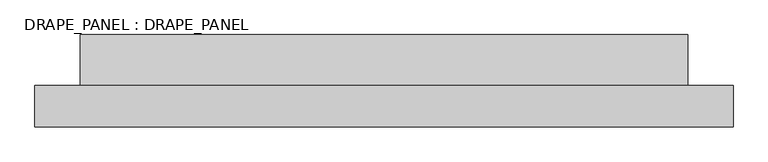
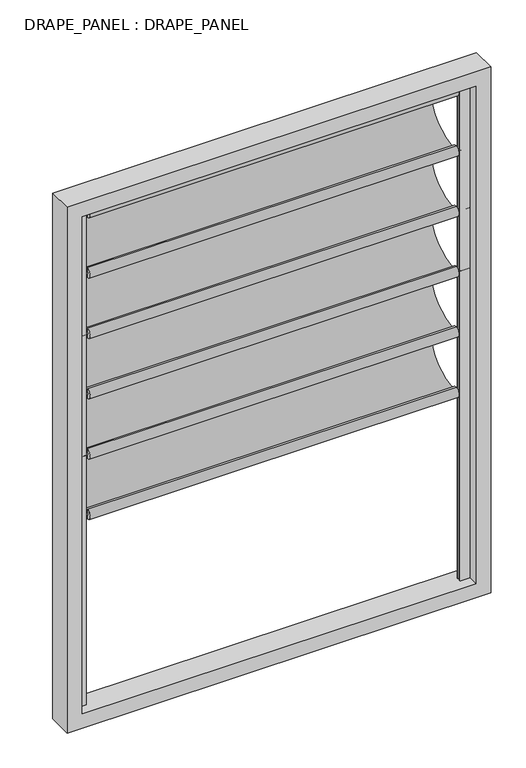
"""IFC4 building model written with IfcOpenShell, lengths in millimetres: plate geometry, DRAPE_PANEL : DRAPE_PANEL."""

from ifc_helpers import new_model, si_unit, point, frame, origin, place, context, project, spatial, polyline, circle_curve, ellipse_curve, trimmed, outline, extrude, source, transform, mapped, element, save
from ifc_brep_helpers import plane_surface, cylinder_surface, extruded_surface, advanced_brep


def drape_panel_drape_panel_a66953bd(model_context):
    return source(origin(), model_context, "Body", "SolidModel", [
        advanced_brep(
        [(-790.0, 0.0, 1371.5019792), (-790.0, 0.0, 1376.5019792), (-790.0, 0.0, 1366.5019792), (790.0, 0.0, 1366.5019792), (790.0, 0.0, 1376.5019792), (790.0, 0.0, 1371.5019792), (740.0, 0.0, 1366.5019792), (740.0, 0.0, 1376.5019792), (740.0, 0.0, 1351.5019792), (740.0, 0.0, 1391.5019792), (-740.0, 0.0, 1351.5019792), (-740.0, 0.0, 1391.5019792), (-740.0, 0.0, 1366.5019792), (-740.0, 0.0, 1376.5019792)],
        [
            (0, 1),
            (1, 2, circle_curve(frame((-790.0, 0.0, 1371.5019792), z_axis=(-1.0, 0.0, 0.0), x_axis=(0.0, 0.0, 1.0)), 5.0)),
            (2, 0),
            (2, 1, circle_curve(frame((-790.0, 0.0, 1371.5019792), z_axis=(-1.0, 0.0, 0.0), x_axis=(0.0, 0.0, 1.0)), 5.0)),
            (3, 4, circle_curve(frame((790.0, 0.0, 1371.5019792), z_axis=(1.0, 0.0, 0.0), x_axis=(0.0, 0.0, 1.0)), 5.0)),
            (4, 5),
            (5, 3),
            (4, 3, circle_curve(frame((790.0, 0.0, 1371.5019792), z_axis=(1.0, 0.0, 0.0), x_axis=(0.0, 0.0, 1.0)), 5.0)),
            (6, 7, circle_curve(frame((740.0, 0.0, 1371.5019792), z_axis=(1.0, 0.0, 0.0), x_axis=(0.0, 0.0, 1.0)), 5.0)),
            (7, 4),
            (3, 6),
            (7, 6, circle_curve(frame((740.0, 0.0, 1371.5019792), z_axis=(1.0, 0.0, 0.0), x_axis=(0.0, 0.0, 1.0)), 5.0)),
            (8, 9, circle_curve(frame((740.0, 0.0, 1371.5019792), z_axis=(1.0, 0.0, 0.0), x_axis=(0.0, 0.0, 1.0)), 20.0)),
            (9, 7),
            (6, 8),
            (9, 8, circle_curve(frame((740.0, 0.0, 1371.5019792), z_axis=(1.0, 0.0, 0.0), x_axis=(0.0, 0.0, 1.0)), 20.0)),
            (10, 11, circle_curve(frame((-740.0, 0.0, 1371.5019792), z_axis=(1.0, 0.0, 0.0), x_axis=(0.0, 0.0, 1.0)), 20.0)),
            (11, 9),
            (8, 10),
            (11, 10, circle_curve(frame((-740.0, 0.0, 1371.5019792), z_axis=(1.0, 0.0, 0.0), x_axis=(0.0, 0.0, 1.0)), 20.0)),
            (12, 13, circle_curve(frame((-740.0, 0.0, 1371.5019792), z_axis=(1.0, 0.0, 0.0), x_axis=(0.0, 0.0, 1.0)), 5.0)),
            (13, 11),
            (10, 12),
            (13, 12, circle_curve(frame((-740.0, 0.0, 1371.5019792), z_axis=(1.0, 0.0, 0.0), x_axis=(0.0, 0.0, 1.0)), 5.0)),
            (1, 13),
            (12, 2),
        ],
        [
            plane_surface(frame((-790.0, 0.0, 1371.5019792), z_axis=(-1.0, 0.0, 0.0), x_axis=(0.0, 0.0, 1.0))),
            plane_surface(frame((790.0, 0.0, 1371.5019792), z_axis=(1.0, 0.0, 0.0), x_axis=(0.0, 0.0, 1.0))),
            cylinder_surface(frame((6238.8752301, 0.0, 1371.5019792), z_axis=(-1.0, 0.0, 0.0), x_axis=(0.0, 0.0, 1.0)), 5.0),
            plane_surface(frame((740.0, 0.0, 1371.5019792), z_axis=(1.0, 0.0, 0.0), x_axis=(0.0, 0.0, 1.0))),
            cylinder_surface(frame((6238.8752301, 0.0, 1371.5019792), z_axis=(-1.0, 0.0, 0.0), x_axis=(0.0, 0.0, 1.0)), 20.0),
            plane_surface(frame((-740.0, 0.0, 1371.5019792), z_axis=(-1.0, 0.0, 0.0), x_axis=(0.0, 0.0, 1.0))),
        ],
        [
            (0, [[1, 2, 3]]),
            (0, [[-3, 4, -1]]),
            (1, [[5, 6, 7]]),
            (1, [[8, -7, -6]]),
            (2, [[9, 10, -5, 11]]),
            (2, [[12, -11, -8, -10]]),
            (3, [[13, 14, -9, 15]]),
            (3, [[16, -15, -12, -14]]),
            (4, [[17, 18, -13, 19]]),
            (4, [[20, -19, -16, -18]]),
            (5, [[21, 22, -17, 23]]),
            (5, [[24, -23, -20, -22]]),
            (2, [[-2, 25, -21, 26]]),
            (2, [[-4, -26, -24, -25]]),
        ],
    ),
        advanced_brep(
        [(740.0, 0.0, 1371.5019792), (740.0, 0.0, 1368.5019792), (740.0, 0.0, 1118.7509896), (740.0, 0.0, 1115.7509896), (-740.0, 0.0, 1371.5019792), (-740.0, 0.0, 1115.7509896), (-740.0, 0.0, 1118.7509896), (-740.0, 0.0, 1368.5019792)],
        [
            (0, 1),
            (1, 2, ellipse_curve(frame((740.0, 0.0, 1243.6264844), z_axis=(-1.0, 0.0, 0.0), x_axis=(0.0, -1.0, 0.0)), 171.2452068, 124.8754948)),
            (2, 3),
            (3, 0, ellipse_curve(frame((740.0, 0.0, 1243.6264844), z_axis=(1.0, 0.0, 0.0), x_axis=(0.0, 1.0, 0.0)), 174.2452068, 127.8754948)),
            (4, 5, ellipse_curve(frame((-740.0, 0.0, 1243.6264844), z_axis=(-1.0, 0.0, 0.0), x_axis=(0.0, 0.0, -1.0)), 127.8754948, 174.2452068)),
            (5, 6),
            (6, 7, ellipse_curve(frame((-740.0, 0.0, 1243.6264844), z_axis=(1.0, 0.0, 0.0), x_axis=(0.0, 0.0, -1.0)), 124.8754948, 171.2452068)),
            (7, 4),
            (0, 4),
            (7, 1),
            (6, 2),
            (5, 3),
        ],
        [
            plane_surface(frame((740.0, 0.0, 1371.5019792), z_axis=(1.0, 0.0, 0.0), x_axis=(0.0, -1.3744986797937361e-12, -1.0))),
            plane_surface(frame((-740.0, 0.0, 1371.5019792), z_axis=(-1.0, 0.0, 0.0), x_axis=(0.0, 1.3744986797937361e-12, 1.0))),
            plane_surface(frame((740.0, 0.0, 1371.5019792), z_axis=(0.0, -1.0, 1.3744986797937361e-12), x_axis=(-1.0, 0.0, 0.0))),
            extruded_surface(trimmed(ellipse_curve(frame((-2220.0, 0.0, 1243.6264844), z_axis=(-1.0, 0.0, 0.0), x_axis=(0.0, 0.0, -1.0)), 124.8754948, 171.2452068), [point((-2220.0, 0.0, 1368.5019792))], [point((-2220.0, 0.0, 1118.7509896))], True, "CARTESIAN"), (1480.0, 0.0, 0.0), 1480.0),
            plane_surface(frame((740.0, 0.0, 1118.7509896), z_axis=(0.0, -1.0, 0.0), x_axis=(-1.0, 0.0, 0.0))),
            extruded_surface(trimmed(ellipse_curve(frame((-2220.0, 0.0, 1243.6264844), z_axis=(1.0, 0.0, 0.0), x_axis=(0.0, 0.0, -1.0)), 127.8754948, 174.2452068), [point((-2220.0, 0.0, 1115.7509896))], [point((-2220.0, 0.0, 1371.5019792))], True, "CARTESIAN"), (1480.0, 0.0, 0.0), 1480.0),
        ],
        [
            (0, [[1, 2, 3, 4]]),
            (1, [[5, 6, 7, 8]]),
            (2, [[-1, 9, -8, 10]]),
            (3, [[-2, -10, -7, 11]]),
            (4, [[-3, -11, -6, 12]]),
            (5, [[-4, -12, -5, -9]]),
        ],
    ),
        advanced_brep(
        [(-790.0, 0.0, 1627.2529688), (-790.0, 0.0, 1632.2529688), (-790.0, 0.0, 1622.2529688), (790.0, 0.0, 1622.2529688), (790.0, 0.0, 1632.2529688), (790.0, 0.0, 1627.2529688), (740.0, 0.0, 1622.2529688), (740.0, 0.0, 1632.2529688), (740.0, 0.0, 1607.2529688), (740.0, 0.0, 1647.2529688), (-740.0, 0.0, 1607.2529688), (-740.0, 0.0, 1647.2529688), (-740.0, 0.0, 1622.2529688), (-740.0, 0.0, 1632.2529688)],
        [
            (0, 1),
            (1, 2, circle_curve(frame((-790.0, 0.0, 1627.2529688), z_axis=(-1.0, 0.0, 0.0), x_axis=(0.0, 0.0, 1.0)), 5.0)),
            (2, 0),
            (2, 1, circle_curve(frame((-790.0, 0.0, 1627.2529688), z_axis=(-1.0, 0.0, 0.0), x_axis=(0.0, 0.0, 1.0)), 5.0)),
            (3, 4, circle_curve(frame((790.0, 0.0, 1627.2529688), z_axis=(1.0, 0.0, 0.0), x_axis=(0.0, 0.0, 1.0)), 5.0)),
            (4, 5),
            (5, 3),
            (4, 3, circle_curve(frame((790.0, 0.0, 1627.2529688), z_axis=(1.0, 0.0, 0.0), x_axis=(0.0, 0.0, 1.0)), 5.0)),
            (6, 7, circle_curve(frame((740.0, 0.0, 1627.2529688), z_axis=(1.0, 0.0, 0.0), x_axis=(0.0, 0.0, 1.0)), 5.0)),
            (7, 4),
            (3, 6),
            (7, 6, circle_curve(frame((740.0, 0.0, 1627.2529688), z_axis=(1.0, 0.0, 0.0), x_axis=(0.0, 0.0, 1.0)), 5.0)),
            (8, 9, circle_curve(frame((740.0, 0.0, 1627.2529688), z_axis=(1.0, 0.0, 0.0), x_axis=(0.0, 0.0, 1.0)), 20.0)),
            (9, 7),
            (6, 8),
            (9, 8, circle_curve(frame((740.0, 0.0, 1627.2529688), z_axis=(1.0, 0.0, 0.0), x_axis=(0.0, 0.0, 1.0)), 20.0)),
            (10, 11, circle_curve(frame((-740.0, 0.0, 1627.2529688), z_axis=(1.0, 0.0, 0.0), x_axis=(0.0, 0.0, 1.0)), 20.0)),
            (11, 9),
            (8, 10),
            (11, 10, circle_curve(frame((-740.0, 0.0, 1627.2529688), z_axis=(1.0, 0.0, 0.0), x_axis=(0.0, 0.0, 1.0)), 20.0)),
            (12, 13, circle_curve(frame((-740.0, 0.0, 1627.2529688), z_axis=(1.0, 0.0, 0.0), x_axis=(0.0, 0.0, 1.0)), 5.0)),
            (13, 11),
            (10, 12),
            (13, 12, circle_curve(frame((-740.0, 0.0, 1627.2529688), z_axis=(1.0, 0.0, 0.0), x_axis=(0.0, 0.0, 1.0)), 5.0)),
            (1, 13),
            (12, 2),
        ],
        [
            plane_surface(frame((-790.0, 0.0, 1627.2529688), z_axis=(-1.0, 0.0, 0.0), x_axis=(0.0, 0.0, 1.0))),
            plane_surface(frame((790.0, 0.0, 1627.2529688), z_axis=(1.0, 0.0, 0.0), x_axis=(0.0, 0.0, 1.0))),
            cylinder_surface(frame((6238.8752301, 0.0, 1627.2529688), z_axis=(-1.0, 0.0, 0.0), x_axis=(0.0, 0.0, 1.0)), 5.0),
            plane_surface(frame((740.0, 0.0, 1627.2529688), z_axis=(1.0, 0.0, 0.0), x_axis=(0.0, 0.0, 1.0))),
            cylinder_surface(frame((6238.8752301, 0.0, 1627.2529688), z_axis=(-1.0, 0.0, 0.0), x_axis=(0.0, 0.0, 1.0)), 20.0),
            plane_surface(frame((-740.0, 0.0, 1627.2529688), z_axis=(-1.0, 0.0, 0.0), x_axis=(0.0, 0.0, 1.0))),
        ],
        [
            (0, [[1, 2, 3]]),
            (0, [[-3, 4, -1]]),
            (1, [[5, 6, 7]]),
            (1, [[8, -7, -6]]),
            (2, [[9, 10, -5, 11]]),
            (2, [[12, -11, -8, -10]]),
            (3, [[13, 14, -9, 15]]),
            (3, [[16, -15, -12, -14]]),
            (4, [[17, 18, -13, 19]]),
            (4, [[20, -19, -16, -18]]),
            (5, [[21, 22, -17, 23]]),
            (5, [[24, -23, -20, -22]]),
            (2, [[-2, 25, -21, 26]]),
            (2, [[-4, -26, -24, -25]]),
        ],
    ),
        advanced_brep(
        [(740.0, 0.0, 1627.2529688), (740.0, 0.0, 1624.2529688), (740.0, 0.0, 1374.5019792), (740.0, 0.0, 1371.5019792), (-740.0, 0.0, 1627.2529688), (-740.0, 0.0, 1371.5019792), (-740.0, 0.0, 1374.5019792), (-740.0, 0.0, 1624.2529688)],
        [
            (0, 1),
            (1, 2, ellipse_curve(frame((740.0, 0.0, 1499.377474), z_axis=(-1.0, 0.0, 0.0), x_axis=(0.0, -1.0, 0.0)), 171.2452068, 124.8754948)),
            (2, 3),
            (3, 0, ellipse_curve(frame((740.0, 0.0, 1499.377474), z_axis=(1.0, 0.0, 0.0), x_axis=(0.0, 1.0, 0.0)), 174.2452068, 127.8754948)),
            (4, 5, ellipse_curve(frame((-740.0, 0.0, 1499.377474), z_axis=(-1.0, 0.0, 0.0), x_axis=(0.0, 0.0, -1.0)), 127.8754948, 174.2452068)),
            (5, 6),
            (6, 7, ellipse_curve(frame((-740.0, 0.0, 1499.377474), z_axis=(1.0, 0.0, 0.0), x_axis=(0.0, 0.0, -1.0)), 124.8754948, 171.2452068)),
            (7, 4),
            (0, 4),
            (7, 1),
            (6, 2),
            (5, 3),
        ],
        [
            plane_surface(frame((740.0, 0.0, 1627.2529688), z_axis=(1.0, 0.0, 0.0), x_axis=(0.0, -1.3744986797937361e-12, -1.0))),
            plane_surface(frame((-740.0, 0.0, 1627.2529688), z_axis=(-1.0, 0.0, 0.0), x_axis=(0.0, 1.3744986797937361e-12, 1.0))),
            plane_surface(frame((740.0, 0.0, 1627.2529688), z_axis=(0.0, -1.0, 1.3744986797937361e-12), x_axis=(-1.0, 0.0, 0.0))),
            extruded_surface(trimmed(ellipse_curve(frame((-2220.0, 0.0, 1499.377474), z_axis=(-1.0, 0.0, 0.0), x_axis=(0.0, 0.0, -1.0)), 124.8754948, 171.2452068), [point((-2220.0, 0.0, 1624.2529688))], [point((-2220.0, 0.0, 1374.5019792))], True, "CARTESIAN"), (1480.0, 0.0, 0.0), 1480.0),
            plane_surface(frame((740.0, 0.0, 1374.5019792), z_axis=(0.0, -1.0, 0.0), x_axis=(-1.0, 0.0, 0.0))),
            extruded_surface(trimmed(ellipse_curve(frame((-2220.0, 0.0, 1499.377474), z_axis=(1.0, 0.0, 0.0), x_axis=(0.0, 0.0, -1.0)), 127.8754948, 174.2452068), [point((-2220.0, 0.0, 1371.5019792))], [point((-2220.0, 0.0, 1627.2529688))], True, "CARTESIAN"), (1480.0, 0.0, 0.0), 1480.0),
        ],
        [
            (0, [[1, 2, 3, 4]]),
            (1, [[5, 6, 7, 8]]),
            (2, [[-1, 9, -8, 10]]),
            (3, [[-2, -10, -7, 11]]),
            (4, [[-3, -11, -6, 12]]),
            (5, [[-4, -12, -5, -9]]),
        ],
    ),
        advanced_brep(
        [(-790.0, 0.0, 1883.0039583), (-790.0, 0.0, 1888.0039583), (-790.0, 0.0, 1878.0039583), (790.0, 0.0, 1878.0039583), (790.0, 0.0, 1888.0039583), (790.0, 0.0, 1883.0039583), (740.0, 0.0, 1878.0039583), (740.0, 0.0, 1888.0039583), (740.0, 0.0, 1863.0039583), (740.0, 0.0, 1903.0039583), (-740.0, 0.0, 1863.0039583), (-740.0, 0.0, 1903.0039583), (-740.0, 0.0, 1878.0039583), (-740.0, 0.0, 1888.0039583)],
        [
            (0, 1),
            (1, 2, circle_curve(frame((-790.0, 0.0, 1883.0039583), z_axis=(-1.0, 0.0, 0.0), x_axis=(0.0, 0.0, 1.0)), 5.0)),
            (2, 0),
            (2, 1, circle_curve(frame((-790.0, 0.0, 1883.0039583), z_axis=(-1.0, 0.0, 0.0), x_axis=(0.0, 0.0, 1.0)), 5.0)),
            (3, 4, circle_curve(frame((790.0, 0.0, 1883.0039583), z_axis=(1.0, 0.0, 0.0), x_axis=(0.0, 0.0, 1.0)), 5.0)),
            (4, 5),
            (5, 3),
            (4, 3, circle_curve(frame((790.0, 0.0, 1883.0039583), z_axis=(1.0, 0.0, 0.0), x_axis=(0.0, 0.0, 1.0)), 5.0)),
            (6, 7, circle_curve(frame((740.0, 0.0, 1883.0039583), z_axis=(1.0, 0.0, 0.0), x_axis=(0.0, 0.0, 1.0)), 5.0)),
            (7, 4),
            (3, 6),
            (7, 6, circle_curve(frame((740.0, 0.0, 1883.0039583), z_axis=(1.0, 0.0, 0.0), x_axis=(0.0, 0.0, 1.0)), 5.0)),
            (8, 9, circle_curve(frame((740.0, 0.0, 1883.0039583), z_axis=(1.0, 0.0, 0.0), x_axis=(0.0, 0.0, 1.0)), 20.0)),
            (9, 7),
            (6, 8),
            (9, 8, circle_curve(frame((740.0, 0.0, 1883.0039583), z_axis=(1.0, 0.0, 0.0), x_axis=(0.0, 0.0, 1.0)), 20.0)),
            (10, 11, circle_curve(frame((-740.0, 0.0, 1883.0039583), z_axis=(1.0, 0.0, 0.0), x_axis=(0.0, 0.0, 1.0)), 20.0)),
            (11, 9),
            (8, 10),
            (11, 10, circle_curve(frame((-740.0, 0.0, 1883.0039583), z_axis=(1.0, 0.0, 0.0), x_axis=(0.0, 0.0, 1.0)), 20.0)),
            (12, 13, circle_curve(frame((-740.0, 0.0, 1883.0039583), z_axis=(1.0, 0.0, 0.0), x_axis=(0.0, 0.0, 1.0)), 5.0)),
            (13, 11),
            (10, 12),
            (13, 12, circle_curve(frame((-740.0, 0.0, 1883.0039583), z_axis=(1.0, 0.0, 0.0), x_axis=(0.0, 0.0, 1.0)), 5.0)),
            (1, 13),
            (12, 2),
        ],
        [
            plane_surface(frame((-790.0, 0.0, 1883.0039583), z_axis=(-1.0, 0.0, 0.0), x_axis=(0.0, 0.0, 1.0))),
            plane_surface(frame((790.0, 0.0, 1883.0039583), z_axis=(1.0, 0.0, 0.0), x_axis=(0.0, 0.0, 1.0))),
            cylinder_surface(frame((6238.8752301, 0.0, 1883.0039583), z_axis=(-1.0, 0.0, 0.0), x_axis=(0.0, 0.0, 1.0)), 5.0),
            plane_surface(frame((740.0, 0.0, 1883.0039583), z_axis=(1.0, 0.0, 0.0), x_axis=(0.0, 0.0, 1.0))),
            cylinder_surface(frame((6238.8752301, 0.0, 1883.0039583), z_axis=(-1.0, 0.0, 0.0), x_axis=(0.0, 0.0, 1.0)), 20.0),
            plane_surface(frame((-740.0, 0.0, 1883.0039583), z_axis=(-1.0, 0.0, 0.0), x_axis=(0.0, 0.0, 1.0))),
        ],
        [
            (0, [[1, 2, 3]]),
            (0, [[-3, 4, -1]]),
            (1, [[5, 6, 7]]),
            (1, [[8, -7, -6]]),
            (2, [[9, 10, -5, 11]]),
            (2, [[12, -11, -8, -10]]),
            (3, [[13, 14, -9, 15]]),
            (3, [[16, -15, -12, -14]]),
            (4, [[17, 18, -13, 19]]),
            (4, [[20, -19, -16, -18]]),
            (5, [[21, 22, -17, 23]]),
            (5, [[24, -23, -20, -22]]),
            (2, [[-2, 25, -21, 26]]),
            (2, [[-4, -26, -24, -25]]),
        ],
    ),
        advanced_brep(
        [(740.0, 0.0, 1883.0039583), (740.0, 0.0, 1880.0039583), (740.0, 0.0, 1630.2529688), (740.0, 0.0, 1627.2529688), (-740.0, 0.0, 1883.0039583), (-740.0, 0.0, 1627.2529688), (-740.0, 0.0, 1630.2529687), (-740.0, 0.0, 1880.0039583)],
        [
            (0, 1),
            (1, 2, ellipse_curve(frame((740.0, 0.0, 1755.1284635), z_axis=(-1.0, 0.0, 0.0), x_axis=(0.0, -1.0, 0.0)), 171.2452068, 124.8754948)),
            (2, 3),
            (3, 0, ellipse_curve(frame((740.0, 0.0, 1755.1284635), z_axis=(1.0, 0.0, 0.0), x_axis=(0.0, 1.0, 0.0)), 174.2452068, 127.8754948)),
            (4, 5, ellipse_curve(frame((-740.0, 0.0, 1755.1284635), z_axis=(-1.0, 0.0, 0.0), x_axis=(0.0, 0.0, -1.0)), 127.8754948, 174.2452068)),
            (5, 6),
            (6, 7, ellipse_curve(frame((-740.0, 0.0, 1755.1284635), z_axis=(1.0, 0.0, 0.0), x_axis=(0.0, 0.0, -1.0)), 124.8754948, 171.2452068)),
            (7, 4),
            (0, 4),
            (7, 1),
            (6, 2),
            (5, 3),
        ],
        [
            plane_surface(frame((740.0, 0.0, 1883.0039583), z_axis=(1.0, 0.0, 0.0), x_axis=(0.0, -1.3744986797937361e-12, -1.0))),
            plane_surface(frame((-740.0, 0.0, 1883.0039583), z_axis=(-1.0, 0.0, 0.0), x_axis=(0.0, 1.3744986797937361e-12, 1.0))),
            plane_surface(frame((740.0, 0.0, 1883.0039583), z_axis=(0.0, -1.0, 1.3744986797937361e-12), x_axis=(-1.0, 0.0, 0.0))),
            extruded_surface(trimmed(ellipse_curve(frame((-2220.0, 0.0, 1755.1284635), z_axis=(-1.0, 0.0, 0.0), x_axis=(0.0, 0.0, -1.0)), 124.8754948, 171.2452068), [point((-2220.0, 0.0, 1880.0039583))], [point((-2220.0, 0.0, 1630.2529687))], True, "CARTESIAN"), (1480.0, 0.0, 0.0), 1480.0),
            plane_surface(frame((740.0, 0.0, 1630.2529688), z_axis=(0.0, -1.0, 0.0), x_axis=(-1.0, 0.0, 0.0))),
            extruded_surface(trimmed(ellipse_curve(frame((-2220.0, 0.0, 1755.1284635), z_axis=(1.0, 0.0, 0.0), x_axis=(0.0, 0.0, -1.0)), 127.8754948, 174.2452068), [point((-2220.0, 0.0, 1627.2529688))], [point((-2220.0, 0.0, 1883.0039583))], True, "CARTESIAN"), (1480.0, 0.0, 0.0), 1480.0),
        ],
        [
            (0, [[1, 2, 3, 4]]),
            (1, [[5, 6, 7, 8]]),
            (2, [[-1, 9, -8, 10]]),
            (3, [[-2, -10, -7, 11]]),
            (4, [[-3, -11, -6, 12]]),
            (5, [[-4, -12, -5, -9]]),
        ],
    ),
        advanced_brep(
        [(-790.0, 0.0, 1115.7509896), (-790.0, 0.0, 1120.7509896), (-790.0, 0.0, 1110.7509896), (790.0, 0.0, 1110.7509896), (790.0, 0.0, 1120.7509896), (790.0, 0.0, 1115.7509896), (740.0, 0.0, 1110.7509896), (740.0, 0.0, 1120.7509896), (740.0, 0.0, 1095.7509896), (740.0, 0.0, 1135.7509896), (-740.0, 0.0, 1095.7509896), (-740.0, 0.0, 1135.7509896), (-740.0, 0.0, 1110.7509896), (-740.0, 0.0, 1120.7509896)],
        [
            (0, 1),
            (1, 2, circle_curve(frame((-790.0, 0.0, 1115.7509896), z_axis=(-1.0, 0.0, 0.0), x_axis=(0.0, 0.0, 1.0)), 5.0)),
            (2, 0),
            (2, 1, circle_curve(frame((-790.0, 0.0, 1115.7509896), z_axis=(-1.0, 0.0, 0.0), x_axis=(0.0, 0.0, 1.0)), 5.0)),
            (3, 4, circle_curve(frame((790.0, 0.0, 1115.7509896), z_axis=(1.0, 0.0, 0.0), x_axis=(0.0, 0.0, 1.0)), 5.0)),
            (4, 5),
            (5, 3),
            (4, 3, circle_curve(frame((790.0, 0.0, 1115.7509896), z_axis=(1.0, 0.0, 0.0), x_axis=(0.0, 0.0, 1.0)), 5.0)),
            (6, 7, circle_curve(frame((740.0, 0.0, 1115.7509896), z_axis=(1.0, 0.0, 0.0), x_axis=(0.0, 0.0, 1.0)), 5.0)),
            (7, 4),
            (3, 6),
            (7, 6, circle_curve(frame((740.0, 0.0, 1115.7509896), z_axis=(1.0, 0.0, 0.0), x_axis=(0.0, 0.0, 1.0)), 5.0)),
            (8, 9, circle_curve(frame((740.0, 0.0, 1115.7509896), z_axis=(1.0, 0.0, 0.0), x_axis=(0.0, 0.0, 1.0)), 20.0)),
            (9, 7),
            (6, 8),
            (9, 8, circle_curve(frame((740.0, 0.0, 1115.7509896), z_axis=(1.0, 0.0, 0.0), x_axis=(0.0, 0.0, 1.0)), 20.0)),
            (10, 11, circle_curve(frame((-740.0, 0.0, 1115.7509896), z_axis=(1.0, 0.0, 0.0), x_axis=(0.0, 0.0, 1.0)), 20.0)),
            (11, 9),
            (8, 10),
            (11, 10, circle_curve(frame((-740.0, 0.0, 1115.7509896), z_axis=(1.0, 0.0, 0.0), x_axis=(0.0, 0.0, 1.0)), 20.0)),
            (12, 13, circle_curve(frame((-740.0, 0.0, 1115.7509896), z_axis=(1.0, 0.0, 0.0), x_axis=(0.0, 0.0, 1.0)), 5.0)),
            (13, 11),
            (10, 12),
            (13, 12, circle_curve(frame((-740.0, 0.0, 1115.7509896), z_axis=(1.0, 0.0, 0.0), x_axis=(0.0, 0.0, 1.0)), 5.0)),
            (1, 13),
            (12, 2),
        ],
        [
            plane_surface(frame((-790.0, 0.0, 1115.7509896), z_axis=(-1.0, 0.0, 0.0), x_axis=(0.0, 0.0, 1.0))),
            plane_surface(frame((790.0, 0.0, 1115.7509896), z_axis=(1.0, 0.0, 0.0), x_axis=(0.0, 0.0, 1.0))),
            cylinder_surface(frame((6238.8752301, 0.0, 1115.7509896), z_axis=(-1.0, 0.0, 0.0), x_axis=(0.0, 0.0, 1.0)), 5.0),
            plane_surface(frame((740.0, 0.0, 1115.7509896), z_axis=(1.0, 0.0, 0.0), x_axis=(0.0, 0.0, 1.0))),
            cylinder_surface(frame((6238.8752301, 0.0, 1115.7509896), z_axis=(-1.0, 0.0, 0.0), x_axis=(0.0, 0.0, 1.0)), 20.0),
            plane_surface(frame((-740.0, 0.0, 1115.7509896), z_axis=(-1.0, 0.0, 0.0), x_axis=(0.0, 0.0, 1.0))),
        ],
        [
            (0, [[1, 2, 3]]),
            (0, [[-3, 4, -1]]),
            (1, [[5, 6, 7]]),
            (1, [[8, -7, -6]]),
            (2, [[9, 10, -5, 11]]),
            (2, [[12, -11, -8, -10]]),
            (3, [[13, 14, -9, 15]]),
            (3, [[16, -15, -12, -14]]),
            (4, [[17, 18, -13, 19]]),
            (4, [[20, -19, -16, -18]]),
            (5, [[21, 22, -17, 23]]),
            (5, [[24, -23, -20, -22]]),
            (2, [[-2, 25, -21, 26]]),
            (2, [[-4, -26, -24, -25]]),
        ],
    ),
        advanced_brep(
        [(740.0, 0.0, 1115.7509896), (740.0, 0.0, 1112.7509896), (740.0, 0.0, 863.0), (740.0, 0.0, 860.0), (-740.0, 0.0, 1115.7509896), (-740.0, 0.0, 860.0), (-740.0, 0.0, 863.0), (-740.0, 0.0, 1112.7509896)],
        [
            (0, 1),
            (1, 2, ellipse_curve(frame((740.0, 0.0, 987.8754948), z_axis=(-1.0, 0.0, 0.0), x_axis=(0.0, -1.0, 0.0)), 171.2452068, 124.8754948)),
            (2, 3),
            (3, 0, ellipse_curve(frame((740.0, 0.0, 987.8754948), z_axis=(1.0, 0.0, 0.0), x_axis=(0.0, 1.0, 0.0)), 174.2452068, 127.8754948)),
            (4, 5, ellipse_curve(frame((-740.0, 0.0, 987.8754948), z_axis=(-1.0, 0.0, 0.0), x_axis=(0.0, 0.0, -1.0)), 127.8754948, 174.2452068)),
            (5, 6),
            (6, 7, ellipse_curve(frame((-740.0, 0.0, 987.8754948), z_axis=(1.0, 0.0, 0.0), x_axis=(0.0, 0.0, -1.0)), 124.8754948, 171.2452068)),
            (7, 4),
            (0, 4),
            (7, 1),
            (6, 2),
            (5, 3),
        ],
        [
            plane_surface(frame((740.0, 0.0, 1115.7509896), z_axis=(1.0, 0.0, 0.0), x_axis=(0.0, -1.3744986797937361e-12, -1.0))),
            plane_surface(frame((-740.0, 0.0, 1115.7509896), z_axis=(-1.0, 0.0, 0.0), x_axis=(0.0, 1.3744986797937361e-12, 1.0))),
            plane_surface(frame((740.0, 0.0, 1115.7509896), z_axis=(0.0, -1.0, 1.3744986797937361e-12), x_axis=(-1.0, 0.0, 0.0))),
            extruded_surface(trimmed(ellipse_curve(frame((-2220.0, 0.0, 987.8754948), z_axis=(-1.0, 0.0, 0.0), x_axis=(0.0, 0.0, -1.0)), 124.8754948, 171.2452068), [point((-2220.0, 0.0, 1112.7509896))], [point((-2220.0, 0.0, 863.0))], True, "CARTESIAN"), (1480.0, 0.0, 0.0), 1480.0),
            plane_surface(frame((740.0, 0.0, 863.0), z_axis=(0.0, -1.0, 0.0), x_axis=(-1.0, 0.0, 0.0))),
            extruded_surface(trimmed(ellipse_curve(frame((-2220.0, 0.0, 987.8754948), z_axis=(1.0, 0.0, 0.0), x_axis=(0.0, 0.0, -1.0)), 127.8754948, 174.2452068), [point((-2220.0, 0.0, 860.0))], [point((-2220.0, 0.0, 1115.7509896))], True, "CARTESIAN"), (1480.0, 0.0, 0.0), 1480.0),
        ],
        [
            (0, [[1, 2, 3, 4]]),
            (1, [[5, 6, 7, 8]]),
            (2, [[-1, 9, -8, 10]]),
            (3, [[-2, -10, -7, 11]]),
            (4, [[-3, -11, -6, 12]]),
            (5, [[-4, -12, -5, -9]]),
        ],
    ),
        advanced_brep(
        [(-790.0, 0.0, 2138.7549479), (-790.0, 0.0, 2143.7549479), (-790.0, 0.0, 2133.7549479), (790.0, 0.0, 2133.7549479), (790.0, 0.0, 2143.7549479), (790.0, 0.0, 2138.7549479), (740.0, 0.0, 2133.7549479), (740.0, 0.0, 2143.7549479), (740.0, 0.0, 2118.7549479), (740.0, 0.0, 2158.7549479), (-740.0, 0.0, 2118.7549479), (-740.0, 0.0, 2158.7549479), (-740.0, 0.0, 2133.7549479), (-740.0, 0.0, 2143.7549479)],
        [
            (0, 1),
            (1, 2, circle_curve(frame((-790.0, 0.0, 2138.7549479), z_axis=(-1.0, 0.0, 0.0), x_axis=(0.0, 0.0, 1.0)), 5.0)),
            (2, 0),
            (2, 1, circle_curve(frame((-790.0, 0.0, 2138.7549479), z_axis=(-1.0, 0.0, 0.0), x_axis=(0.0, 0.0, 1.0)), 5.0)),
            (3, 4, circle_curve(frame((790.0, 0.0, 2138.7549479), z_axis=(1.0, 0.0, 0.0), x_axis=(0.0, 0.0, 1.0)), 5.0)),
            (4, 5),
            (5, 3),
            (4, 3, circle_curve(frame((790.0, 0.0, 2138.7549479), z_axis=(1.0, 0.0, 0.0), x_axis=(0.0, 0.0, 1.0)), 5.0)),
            (6, 7, circle_curve(frame((740.0, 0.0, 2138.7549479), z_axis=(1.0, 0.0, 0.0), x_axis=(0.0, 0.0, 1.0)), 5.0)),
            (7, 4),
            (3, 6),
            (7, 6, circle_curve(frame((740.0, 0.0, 2138.7549479), z_axis=(1.0, 0.0, 0.0), x_axis=(0.0, 0.0, 1.0)), 5.0)),
            (8, 9, circle_curve(frame((740.0, 0.0, 2138.7549479), z_axis=(1.0, 0.0, 0.0), x_axis=(0.0, 0.0, 1.0)), 20.0)),
            (9, 7),
            (6, 8),
            (9, 8, circle_curve(frame((740.0, 0.0, 2138.7549479), z_axis=(1.0, 0.0, 0.0), x_axis=(0.0, 0.0, 1.0)), 20.0)),
            (10, 11, circle_curve(frame((-740.0, 0.0, 2138.7549479), z_axis=(1.0, 0.0, 0.0), x_axis=(0.0, 0.0, 1.0)), 20.0)),
            (11, 9),
            (8, 10),
            (11, 10, circle_curve(frame((-740.0, 0.0, 2138.7549479), z_axis=(1.0, 0.0, 0.0), x_axis=(0.0, 0.0, 1.0)), 20.0)),
            (12, 13, circle_curve(frame((-740.0, 0.0, 2138.7549479), z_axis=(1.0, 0.0, 0.0), x_axis=(0.0, 0.0, 1.0)), 5.0)),
            (13, 11),
            (10, 12),
            (13, 12, circle_curve(frame((-740.0, 0.0, 2138.7549479), z_axis=(1.0, 0.0, 0.0), x_axis=(0.0, 0.0, 1.0)), 5.0)),
            (1, 13),
            (12, 2),
        ],
        [
            plane_surface(frame((-790.0, 0.0, 2138.7549479), z_axis=(-1.0, 0.0, 0.0), x_axis=(0.0, 0.0, 1.0))),
            plane_surface(frame((790.0, 0.0, 2138.7549479), z_axis=(1.0, 0.0, 0.0), x_axis=(0.0, 0.0, 1.0))),
            cylinder_surface(frame((6238.8752301, 0.0, 2138.7549479), z_axis=(-1.0, 0.0, 0.0), x_axis=(0.0, 0.0, 1.0)), 5.0),
            plane_surface(frame((740.0, 0.0, 2138.7549479), z_axis=(1.0, 0.0, 0.0), x_axis=(0.0, 0.0, 1.0))),
            cylinder_surface(frame((6238.8752301, 0.0, 2138.7549479), z_axis=(-1.0, 0.0, 0.0), x_axis=(0.0, 0.0, 1.0)), 20.0),
            plane_surface(frame((-740.0, 0.0, 2138.7549479), z_axis=(-1.0, 0.0, 0.0), x_axis=(0.0, 0.0, 1.0))),
        ],
        [
            (0, [[1, 2, 3]]),
            (0, [[-3, 4, -1]]),
            (1, [[5, 6, 7]]),
            (1, [[8, -7, -6]]),
            (2, [[9, 10, -5, 11]]),
            (2, [[12, -11, -8, -10]]),
            (3, [[13, 14, -9, 15]]),
            (3, [[16, -15, -12, -14]]),
            (4, [[17, 18, -13, 19]]),
            (4, [[20, -19, -16, -18]]),
            (5, [[21, 22, -17, 23]]),
            (5, [[24, -23, -20, -22]]),
            (2, [[-2, 25, -21, 26]]),
            (2, [[-4, -26, -24, -25]]),
        ],
    ),
        advanced_brep(
        [(740.0, 0.0, 2138.7549479), (740.0, 0.0, 2135.7549479), (740.0, 0.0, 1886.0039583), (740.0, 0.0, 1883.0039583), (-740.0, 0.0, 2138.7549479), (-740.0, 0.0, 1883.0039583), (-740.0, 0.0, 1886.0039583), (-740.0, 0.0, 2135.7549479)],
        [
            (0, 1),
            (1, 2, ellipse_curve(frame((740.0, 0.0, 2010.8794531), z_axis=(-1.0, 0.0, 0.0), x_axis=(0.0, -1.0, 0.0)), 171.2452068, 124.8754948)),
            (2, 3),
            (3, 0, ellipse_curve(frame((740.0, 0.0, 2010.8794531), z_axis=(1.0, 0.0, 0.0), x_axis=(0.0, 1.0, 0.0)), 174.2452068, 127.8754948)),
            (4, 5, ellipse_curve(frame((-740.0, 0.0, 2010.8794531), z_axis=(-1.0, 0.0, 0.0), x_axis=(0.0, 0.0, -1.0)), 127.8754948, 174.2452068)),
            (5, 6),
            (6, 7, ellipse_curve(frame((-740.0, 0.0, 2010.8794531), z_axis=(1.0, 0.0, 0.0), x_axis=(0.0, 0.0, -1.0)), 124.8754948, 171.2452068)),
            (7, 4),
            (0, 4),
            (7, 1),
            (6, 2),
            (5, 3),
        ],
        [
            plane_surface(frame((740.0, 0.0, 2138.7549479), z_axis=(1.0, 0.0, 0.0), x_axis=(0.0, -1.3744986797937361e-12, -1.0))),
            plane_surface(frame((-740.0, 0.0, 2138.7549479), z_axis=(-1.0, 0.0, 0.0), x_axis=(0.0, 1.3744986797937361e-12, 1.0))),
            plane_surface(frame((740.0, 0.0, 2138.7549479), z_axis=(0.0, -1.0, 1.3744986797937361e-12), x_axis=(-1.0, 0.0, 0.0))),
            extruded_surface(trimmed(ellipse_curve(frame((-2220.0, 0.0, 2010.8794531), z_axis=(-1.0, 0.0, 0.0), x_axis=(0.0, 0.0, -1.0)), 124.8754948, 171.2452068), [point((-2220.0, 0.0, 2135.7549479))], [point((-2220.0, 0.0, 1886.0039583))], True, "CARTESIAN"), (1480.0, 0.0, 0.0), 1480.0),
            plane_surface(frame((740.0, 0.0, 1886.0039583), z_axis=(0.0, -1.0, 0.0), x_axis=(-1.0, 0.0, 0.0))),
            extruded_surface(trimmed(ellipse_curve(frame((-2220.0, 0.0, 2010.8794531), z_axis=(1.0, 0.0, 0.0), x_axis=(0.0, 0.0, -1.0)), 127.8754948, 174.2452068), [point((-2220.0, 0.0, 1883.0039583))], [point((-2220.0, 0.0, 2138.7549479))], True, "CARTESIAN"), (1480.0, 0.0, 0.0), 1480.0),
        ],
        [
            (0, [[1, 2, 3, 4]]),
            (1, [[5, 6, 7, 8]]),
            (2, [[-1, 9, -8, 10]]),
            (3, [[-2, -10, -7, 11]]),
            (4, [[-3, -11, -6, 12]]),
            (5, [[-4, -12, -5, -9]]),
        ],
    ),
        extrude(outline(polyline([(750.0, 5.0), (750.0, 10.0), (790.0, 10.0), (790.0, -10.0), (750.0, -10.0), (750.0, -5.0), (785.0, -5.0), (785.0, 5.0), (750.0, 5.0)])), frame((0.0, 0.0, 60.0), z_axis=(0.0, 0.0, 1.0), x_axis=(1.0, 0.0, 0.0)), (0.0, 0.0, 1.0), 2108.7549479),
        extrude(outline(polyline([(-750.0, 5.0), (-785.0, 5.0), (-785.0, -5.0), (-750.0, -5.0), (-750.0, -10.0), (-790.0, -10.0), (-790.0, 10.0), (-750.0, 10.0), (-750.0, 5.0)])), frame((0.0, 0.0, 60.0), z_axis=(0.0, 0.0, 1.0), x_axis=(1.0, 0.0, 0.0)), (0.0, 0.0, 1.0), 2108.7549479),
        advanced_brep(
        [(740.0, 0.0, 855.0), (740.0, 0.0, 865.0), (790.0, 0.0, 865.0), (790.0, 0.0, 855.0), (740.0, 0.0, 840.0), (740.0, 0.0, 880.0), (-740.0, 0.0, 840.0), (-740.0, 0.0, 880.0), (-740.0, 0.0, 855.0), (-740.0, 0.0, 865.0), (-790.0, 0.0, 855.0), (-790.0, 0.0, 865.0), (-790.0, 0.0, 860.0), (790.0, 0.0, 860.0)],
        [
            (0, 1, circle_curve(frame((740.0, 0.0, 860.0), z_axis=(1.0, 0.0, 0.0), x_axis=(0.0, 0.0, 1.0)), 5.0)),
            (1, 2),
            (2, 3, circle_curve(frame((790.0, 0.0, 860.0), z_axis=(-1.0, 0.0, 0.0), x_axis=(0.0, 0.0, 1.0)), 5.0)),
            (3, 0),
            (1, 0, circle_curve(frame((740.0, 0.0, 860.0), z_axis=(1.0, 0.0, 0.0), x_axis=(0.0, 0.0, 1.0)), 5.0)),
            (3, 2, circle_curve(frame((790.0, 0.0, 860.0), z_axis=(-1.0, 0.0, 0.0), x_axis=(0.0, 0.0, 1.0)), 5.0)),
            (4, 5, circle_curve(frame((740.0, 0.0, 860.0), z_axis=(1.0, 0.0, 0.0), x_axis=(0.0, 0.0, 1.0)), 20.0)),
            (5, 1),
            (0, 4),
            (5, 4, circle_curve(frame((740.0, 0.0, 860.0), z_axis=(1.0, 0.0, 0.0), x_axis=(0.0, 0.0, 1.0)), 20.0)),
            (6, 7, circle_curve(frame((-740.0, 0.0, 860.0), z_axis=(1.0, 0.0, 0.0), x_axis=(0.0, 0.0, 1.0)), 20.0)),
            (7, 5),
            (4, 6),
            (7, 6, circle_curve(frame((-740.0, 0.0, 860.0), z_axis=(1.0, 0.0, 0.0), x_axis=(0.0, 0.0, 1.0)), 20.0)),
            (8, 9, circle_curve(frame((-740.0, 0.0, 860.0), z_axis=(1.0, 0.0, 0.0), x_axis=(0.0, 0.0, 1.0)), 5.0)),
            (9, 7),
            (6, 8),
            (9, 8, circle_curve(frame((-740.0, 0.0, 860.0), z_axis=(1.0, 0.0, 0.0), x_axis=(0.0, 0.0, 1.0)), 5.0)),
            (10, 11, circle_curve(frame((-790.0, 0.0, 860.0), z_axis=(1.0, 0.0, 0.0), x_axis=(0.0, 0.0, 1.0)), 5.0)),
            (11, 9),
            (8, 10),
            (11, 10, circle_curve(frame((-790.0, 0.0, 860.0), z_axis=(1.0, 0.0, 0.0), x_axis=(0.0, 0.0, 1.0)), 5.0)),
            (12, 11),
            (10, 12),
            (2, 13),
            (13, 3),
        ],
        [
            cylinder_surface(frame((9550.0, 0.0, 860.0), z_axis=(-1.0, 0.0, 0.0), x_axis=(0.0, 0.0, 1.0)), 5.0),
            plane_surface(frame((740.0, 0.0, 860.0), z_axis=(1.0, 0.0, 0.0), x_axis=(0.0, 0.0, 1.0))),
            cylinder_surface(frame((9550.0, 0.0, 860.0), z_axis=(-1.0, 0.0, 0.0), x_axis=(0.0, 0.0, 1.0)), 20.0),
            plane_surface(frame((-740.0, 0.0, 860.0), z_axis=(-1.0, 0.0, 0.0), x_axis=(0.0, 0.0, 1.0))),
            plane_surface(frame((-790.0, 0.0, 860.0), z_axis=(-1.0, 0.0, 0.0), x_axis=(0.0, 0.0, 1.0))),
            plane_surface(frame((790.0, 0.0, 860.0), z_axis=(1.0, 0.0, 0.0), x_axis=(0.0, 0.0, 1.0))),
        ],
        [
            (0, [[1, 2, 3, 4]]),
            (0, [[5, -4, 6, -2]]),
            (1, [[7, 8, -1, 9]]),
            (1, [[10, -9, -5, -8]]),
            (2, [[11, 12, -7, 13]]),
            (2, [[14, -13, -10, -12]]),
            (3, [[15, 16, -11, 17]]),
            (3, [[18, -17, -14, -16]]),
            (0, [[19, 20, -15, 21]]),
            (0, [[22, -21, -18, -20]]),
            (4, [[23, -19, 24]]),
            (4, [[-24, -22, -23]]),
            (5, [[-3, 25, 26]]),
            (5, [[-6, -26, -25]]),
        ],
    ),
        extrude(outline(polyline([(2228.7549479, -850.0), (0.0, -850.0), (0.0, 850.0), (2228.7549479, 850.0), (2228.7549479, -850.0)]), holes=[polyline([(2168.7549479, -790.0), (2168.7549479, 790.0), (60.0, 790.0), (60.0, -790.0), (2168.7549479, -790.0)])]), frame((0.0, -50.0, 0.0), z_axis=(0.0, 1.0, 0.0), x_axis=(0.0, 0.0, 1.0)), (0.0, 0.0, 1.0), 100.0),
    ])


if __name__ == "__main__":
    model = new_model("IFC4")
    model_context = context("Model", 3, world=origin())
    ifc_project = project(units=[si_unit("LENGTHUNIT", "METRE", prefix="MILLI")], contexts=[model_context])
    site = spatial("IfcSite", under=ifc_project)
    building = spatial("IfcBuilding", under=site)
    placement = place(None, origin())
    drape_panel_drape_panel_shape = drape_panel_drape_panel_a66953bd(model_context)
    element("IfcPlate", 1, ObjectType="DRAPE_PANEL : DRAPE_PANEL", at=placement, inside=building, context=model_context, shape_type="MappedRepresentation", body=[
        mapped(drape_panel_drape_panel_shape, transform((0.0, 0.0, 0.0), x_axis=(1.0, 0.0, 0.0), y_axis=(0.0, 1.0, 0.0), z_axis=(0.0, 0.0, 1.0))),
    ])
    save(model, "model.ifc")
